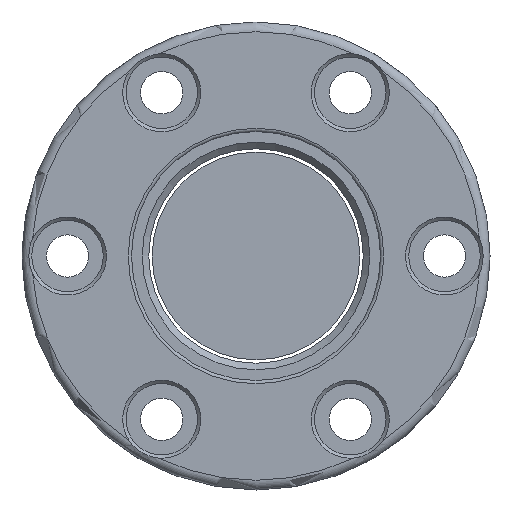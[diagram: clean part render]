
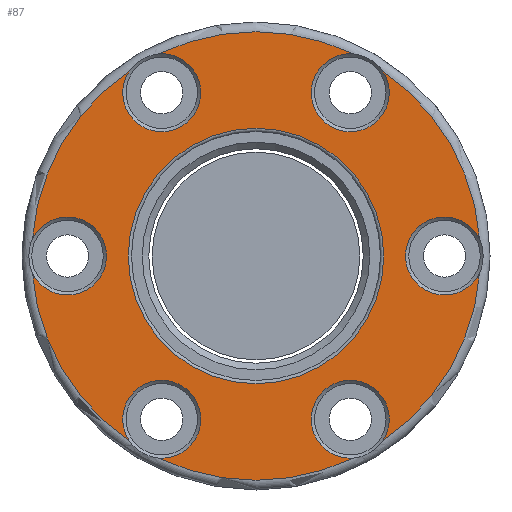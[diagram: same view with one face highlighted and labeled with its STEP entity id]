
A CAD part, front view. The second image highlights one B-rep face of the part: STEP entity #87.
In plain terms, the highlighted planar face has unit normal (0, -1, 0).
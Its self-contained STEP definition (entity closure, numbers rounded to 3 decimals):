
#71=PLANE('',#695);
#87=ADVANCED_FACE('',(#154,#155),#71,.T.);
#154=FACE_BOUND('',#258,.T.);
#155=FACE_BOUND('',#259,.T.);
#258=EDGE_LOOP('',(#362,#363,#364,#365,#366,#367,#368,#369,#370,#371,#372,
#373));
#259=EDGE_LOOP('',(#374));
#362=ORIENTED_EDGE('',*,*,#552,.T.);
#363=ORIENTED_EDGE('',*,*,#553,.T.);
#364=ORIENTED_EDGE('',*,*,#554,.T.);
#365=ORIENTED_EDGE('',*,*,#555,.T.);
#366=ORIENTED_EDGE('',*,*,#556,.T.);
#367=ORIENTED_EDGE('',*,*,#557,.T.);
#368=ORIENTED_EDGE('',*,*,#558,.T.);
#369=ORIENTED_EDGE('',*,*,#559,.T.);
#370=ORIENTED_EDGE('',*,*,#560,.T.);
#371=ORIENTED_EDGE('',*,*,#561,.T.);
#372=ORIENTED_EDGE('',*,*,#562,.T.);
#373=ORIENTED_EDGE('',*,*,#563,.T.);
#374=ORIENTED_EDGE('',*,*,#564,.T.);
#492=VERTEX_POINT('',#1018);
#493=VERTEX_POINT('',#1019);
#494=VERTEX_POINT('',#1021);
#495=VERTEX_POINT('',#1023);
#496=VERTEX_POINT('',#1025);
#497=VERTEX_POINT('',#1027);
#498=VERTEX_POINT('',#1029);
#499=VERTEX_POINT('',#1031);
#500=VERTEX_POINT('',#1033);
#501=VERTEX_POINT('',#1035);
#502=VERTEX_POINT('',#1037);
#503=VERTEX_POINT('',#1039);
#504=VERTEX_POINT('',#1042);
#552=EDGE_CURVE('',#492,#493,#618,.T.);
#553=EDGE_CURVE('',#493,#494,#619,.T.);
#554=EDGE_CURVE('',#494,#495,#620,.T.);
#555=EDGE_CURVE('',#495,#496,#621,.T.);
#556=EDGE_CURVE('',#496,#497,#622,.T.);
#557=EDGE_CURVE('',#497,#498,#623,.T.);
#558=EDGE_CURVE('',#498,#499,#624,.T.);
#559=EDGE_CURVE('',#499,#500,#625,.T.);
#560=EDGE_CURVE('',#500,#501,#626,.T.);
#561=EDGE_CURVE('',#501,#502,#627,.T.);
#562=EDGE_CURVE('',#502,#503,#628,.T.);
#563=EDGE_CURVE('',#503,#492,#629,.T.);
#564=EDGE_CURVE('',#504,#504,#630,.T.);
#618=CIRCLE('',#682,6.);
#619=CIRCLE('',#683,34.5);
#620=CIRCLE('',#684,6.);
#621=CIRCLE('',#685,34.5);
#622=CIRCLE('',#686,6.);
#623=CIRCLE('',#687,34.5);
#624=CIRCLE('',#688,6.);
#625=CIRCLE('',#689,34.5);
#626=CIRCLE('',#690,6.);
#627=CIRCLE('',#691,34.5);
#628=CIRCLE('',#692,6.);
#629=CIRCLE('',#693,34.5);
#630=CIRCLE('',#694,19.65);
#682=AXIS2_PLACEMENT_3D('',#1017,#799,#800);
#683=AXIS2_PLACEMENT_3D('',#1020,#801,#802);
#684=AXIS2_PLACEMENT_3D('',#1022,#803,#804);
#685=AXIS2_PLACEMENT_3D('',#1024,#805,#806);
#686=AXIS2_PLACEMENT_3D('',#1026,#807,#808);
#687=AXIS2_PLACEMENT_3D('',#1028,#809,#810);
#688=AXIS2_PLACEMENT_3D('',#1030,#811,#812);
#689=AXIS2_PLACEMENT_3D('',#1032,#813,#814);
#690=AXIS2_PLACEMENT_3D('',#1034,#815,#816);
#691=AXIS2_PLACEMENT_3D('',#1036,#817,#818);
#692=AXIS2_PLACEMENT_3D('',#1038,#819,#820);
#693=AXIS2_PLACEMENT_3D('',#1040,#821,#822);
#694=AXIS2_PLACEMENT_3D('',#1041,#823,#824);
#695=AXIS2_PLACEMENT_3D('',#1043,#825,#826);
#799=DIRECTION('',(0.,1.,0.));
#800=DIRECTION('',(0.,0.,-1.));
#801=DIRECTION('',(0.,-1.,0.));
#802=DIRECTION('',(0.,0.,-1.));
#803=DIRECTION('',(0.,1.,0.));
#804=DIRECTION('',(0.,0.,-1.));
#805=DIRECTION('',(0.,-1.,0.));
#806=DIRECTION('',(0.,0.,-1.));
#807=DIRECTION('',(0.,1.,0.));
#808=DIRECTION('',(0.,0.,-1.));
#809=DIRECTION('',(0.,-1.,0.));
#810=DIRECTION('',(0.,0.,-1.));
#811=DIRECTION('',(0.,1.,0.));
#812=DIRECTION('',(0.,0.,-1.));
#813=DIRECTION('',(0.,-1.,0.));
#814=DIRECTION('',(0.,0.,-1.));
#815=DIRECTION('',(0.,1.,0.));
#816=DIRECTION('',(0.,0.,-1.));
#817=DIRECTION('',(0.,-1.,0.));
#818=DIRECTION('',(0.,0.,-1.));
#819=DIRECTION('',(0.,1.,0.));
#820=DIRECTION('',(0.,0.,-1.));
#821=DIRECTION('',(0.,-1.,0.));
#822=DIRECTION('',(0.,0.,-1.));
#823=DIRECTION('',(0.,1.,0.));
#824=DIRECTION('',(0.,0.,-1.));
#825=DIRECTION('',(0.,-1.,0.));
#826=DIRECTION('',(0.,0.,-1.));
#1017=CARTESIAN_POINT('',(-29.,0.,0.));
#1018=CARTESIAN_POINT('',(-34.401,0.,2.614));
#1019=CARTESIAN_POINT('',(-34.401,0.,-2.614));
#1020=CARTESIAN_POINT('',(0.,0.,0.));
#1021=CARTESIAN_POINT('',(-19.464,0.,-28.485));
#1022=CARTESIAN_POINT('',(-14.5,0.,-25.115));
#1023=CARTESIAN_POINT('',(-14.937,0.,-31.099));
#1024=CARTESIAN_POINT('',(0.,0.,0.));
#1025=CARTESIAN_POINT('',(14.937,0.,-31.099));
#1026=CARTESIAN_POINT('',(14.5,0.,-25.115));
#1027=CARTESIAN_POINT('',(19.464,0.,-28.485));
#1028=CARTESIAN_POINT('',(0.,0.,0.));
#1029=CARTESIAN_POINT('',(34.401,0.,-2.614));
#1030=CARTESIAN_POINT('',(29.,0.,0.));
#1031=CARTESIAN_POINT('',(34.401,0.,2.614));
#1032=CARTESIAN_POINT('',(0.,0.,0.));
#1033=CARTESIAN_POINT('',(19.464,0.,28.485));
#1034=CARTESIAN_POINT('',(14.5,0.,25.115));
#1035=CARTESIAN_POINT('',(14.937,0.,31.099));
#1036=CARTESIAN_POINT('',(0.,0.,0.));
#1037=CARTESIAN_POINT('',(-14.937,0.,31.099));
#1038=CARTESIAN_POINT('',(-14.5,0.,25.115));
#1039=CARTESIAN_POINT('',(-19.464,0.,28.485));
#1040=CARTESIAN_POINT('',(0.,0.,0.));
#1041=CARTESIAN_POINT('',(0.,0.,0.));
#1042=CARTESIAN_POINT('',(0.,0.,-19.65));
#1043=CARTESIAN_POINT('',(0.,0.,0.));
